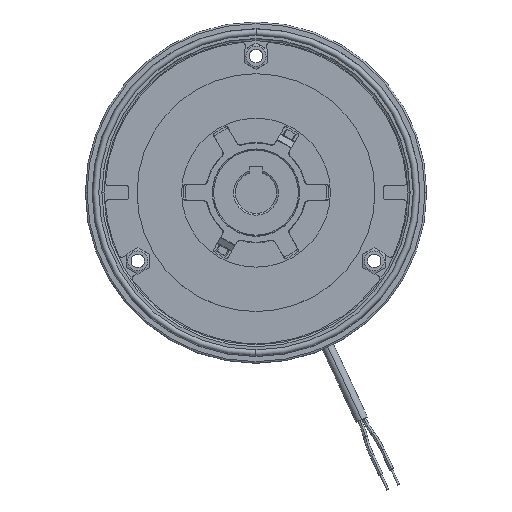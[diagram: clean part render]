
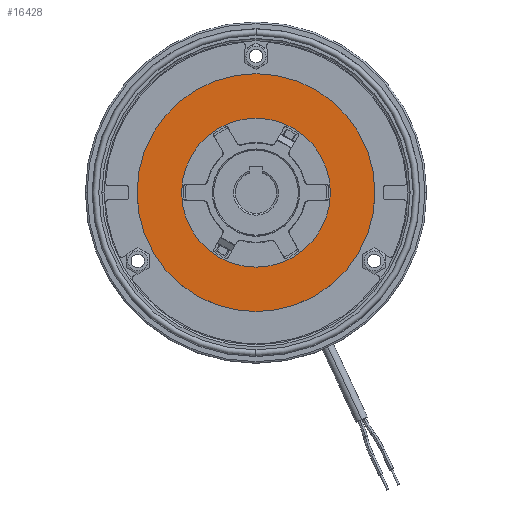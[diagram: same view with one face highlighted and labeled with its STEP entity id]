
A CAD part, top view. The second image highlights one B-rep face of the part: STEP entity #16428.
In plain terms, the highlighted planar face has unit normal (0, 0, 1).
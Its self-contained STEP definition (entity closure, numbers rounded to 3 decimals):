
#747 = EDGE_CURVE ( 'NONE', #15231, #3938, #5934, .T. ) ;
#831 = AXIS2_PLACEMENT_3D ( 'NONE', #3595, #13750, #5118 ) ;
#1936 = CARTESIAN_POINT ( 'NONE',  ( -57.5, 0., 6. ) ) ;
#3595 = CARTESIAN_POINT ( 'NONE',  ( 0., 0., 6. ) ) ;
#3938 = VERTEX_POINT ( 'NONE', #1936 ) ;
#3983 = ORIENTED_EDGE ( 'NONE', *, *, #12648, .F. ) ;
#5118 = DIRECTION ( 'NONE',  ( 1., 0., 0. ) ) ;
#5645 = CIRCLE ( 'NONE', #10767, 57.5 ) ;
#5687 = DIRECTION ( 'NONE',  ( 0., 0., -1. ) ) ;
#5744 = CARTESIAN_POINT ( 'NONE',  ( -36., 0., 6. ) ) ;
#5851 = ORIENTED_EDGE ( 'NONE', *, *, #13982, .F. ) ;
#5934 = CIRCLE ( 'NONE', #12530, 57.5 ) ;
#6379 = VERTEX_POINT ( 'NONE', #5744 ) ;
#6704 = DIRECTION ( 'NONE',  ( -1., 0., 0. ) ) ;
#6878 = EDGE_LOOP ( 'NONE', ( #17193, #17374 ) ) ;
#8563 = DIRECTION ( 'NONE',  ( 0., 0., 1. ) ) ;
#9162 = CIRCLE ( 'NONE', #11544, 36. ) ;
#9911 = PLANE ( 'NONE',  #18251 ) ;
#10105 = CARTESIAN_POINT ( 'NONE',  ( 0., 0., 6. ) ) ;
#10767 = AXIS2_PLACEMENT_3D ( 'NONE', #10105, #5687, #15464 ) ;
#10925 = DIRECTION ( 'NONE',  ( 1., 0., 0. ) ) ;
#11310 = FACE_OUTER_BOUND ( 'NONE', #6878, .T. ) ;
#11544 = AXIS2_PLACEMENT_3D ( 'NONE', #12244, #16463, #10925 ) ;
#12244 = CARTESIAN_POINT ( 'NONE',  ( 0., 0., 6. ) ) ;
#12530 = AXIS2_PLACEMENT_3D ( 'NONE', #18081, #18347, #6704 ) ;
#12567 = VERTEX_POINT ( 'NONE', #17579 ) ;
#12648 = EDGE_CURVE ( 'NONE', #12567, #6379, #15509, .T. ) ;
#13750 = DIRECTION ( 'NONE',  ( 0., 0., 1. ) ) ;
#13949 = CARTESIAN_POINT ( 'NONE',  ( 0., 57.5, 6. ) ) ;
#13982 = EDGE_CURVE ( 'NONE', #6379, #12567, #9162, .T. ) ;
#14305 = DIRECTION ( 'NONE',  ( 1., 0., 0. ) ) ;
#14682 = CARTESIAN_POINT ( 'NONE',  ( 57.5, 0., 6. ) ) ;
#14799 = EDGE_LOOP ( 'NONE', ( #5851, #3983 ) ) ;
#15231 = VERTEX_POINT ( 'NONE', #14682 ) ;
#15464 = DIRECTION ( 'NONE',  ( -1., 0., 0. ) ) ;
#15509 = CIRCLE ( 'NONE', #831, 36. ) ;
#15938 = EDGE_CURVE ( 'NONE', #3938, #15231, #5645, .T. ) ;
#16428 = ADVANCED_FACE ( 'NONE', ( #11310, #18343 ), #9911, .T. ) ;
#16463 = DIRECTION ( 'NONE',  ( 0., 0., 1. ) ) ;
#17193 = ORIENTED_EDGE ( 'NONE', *, *, #15938, .F. ) ;
#17374 = ORIENTED_EDGE ( 'NONE', *, *, #747, .F. ) ;
#17579 = CARTESIAN_POINT ( 'NONE',  ( 36., 0., 6. ) ) ;
#18081 = CARTESIAN_POINT ( 'NONE',  ( 0., 0., 6. ) ) ;
#18251 = AXIS2_PLACEMENT_3D ( 'NONE', #13949, #8563, #14305 ) ;
#18343 = FACE_BOUND ( 'NONE', #14799, .T. ) ;
#18347 = DIRECTION ( 'NONE',  ( 0., 0., -1. ) ) ;
